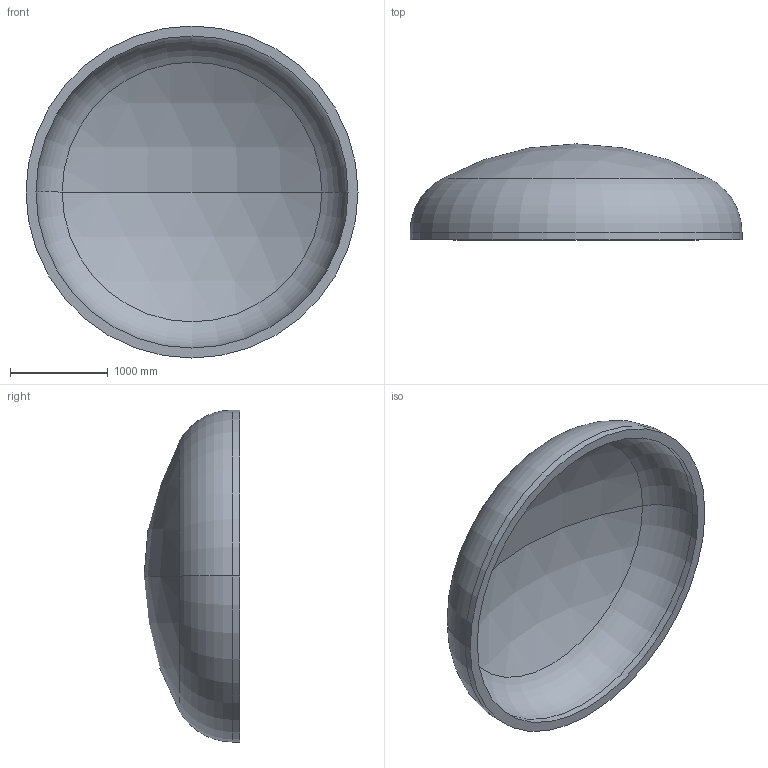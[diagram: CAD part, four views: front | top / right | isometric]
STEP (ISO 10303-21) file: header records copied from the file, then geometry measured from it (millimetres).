
FILE_DESCRIPTION (( 'STEP AP203' ), '1' );
FILE_NAME ('DIN 28013 Korbbogenform_-_Boden DIN 28013 - 3400 x 75 - I - s=102.step', '2016-07-01T19:53:09', ( '' ), ( '' ), 'SwSTEP 2.0', 'SolidWorks 2013', '' );
FILE_SCHEMA (( 'CONFIG_CONTROL_DESIGN' ));
Length unit declared in the file: millimetre
Products named in the file (1): DIN 28013 Korbbogenform_-_Boden DIN 28013 - 3400 x 75 - I - s=102
Bounding box: 3400 x 982.14 x 3400 mm (x, y, z)
Volume: 1313233596.5 mm3; surface area: 26828279 mm2
Topology: 1 solids, 1 shells, 13 faces, 24 edges, 14 vertices
Faces by surface type: torus 4, cylinder 4, sphere 4, plane 1
Entity records: 407 total; most frequent: DIRECTION 72, CARTESIAN_POINT 52, ORIENTED_EDGE 48, AXIS2_PLACEMENT_3D 34, EDGE_CURVE 24, CIRCLE 20, EDGE_LOOP 14, VERTEX_POINT 14
